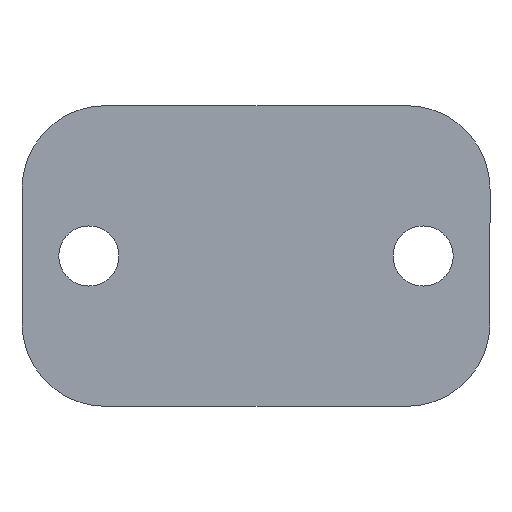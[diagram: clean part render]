
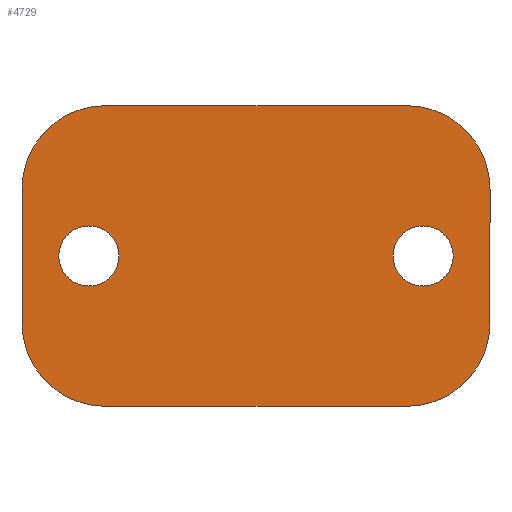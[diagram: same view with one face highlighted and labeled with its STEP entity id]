
A CAD part, front view. The second image highlights one B-rep face of the part: STEP entity #4729.
In plain terms, the highlighted planar face has unit normal (0, -1, 0).
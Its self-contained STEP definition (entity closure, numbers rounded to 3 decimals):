
#27 = EDGE_CURVE ( 'NONE', #5356, #2880, #660, .T. ) ;
#194 = CARTESIAN_POINT ( 'NONE',  ( 70., -20., 20. ) ) ;
#232 = CIRCLE ( 'NONE', #2975, 25. ) ;
#490 = VERTEX_POINT ( 'NONE', #4905 ) ;
#575 = CARTESIAN_POINT ( 'NONE',  ( -45., -20., -45. ) ) ;
#581 = ORIENTED_EDGE ( 'NONE', *, *, #3130, .T. ) ;
#658 = DIRECTION ( 'NONE',  ( 1., 0., 0. ) ) ;
#660 = LINE ( 'NONE', #5425, #1215 ) ;
#700 = DIRECTION ( 'NONE',  ( 0., -1., 0. ) ) ;
#797 = FACE_OUTER_BOUND ( 'NONE', #5540, .T. ) ;
#937 = VECTOR ( 'NONE', #2782, 1000. ) ;
#949 = ORIENTED_EDGE ( 'NONE', *, *, #999, .F. ) ;
#954 = DIRECTION ( 'NONE',  ( -1., 0., 0. ) ) ;
#980 = CARTESIAN_POINT ( 'NONE',  ( -50., -20., 0. ) ) ;
#999 = EDGE_CURVE ( 'NONE', #490, #2660, #2511, .T. ) ;
#1008 = EDGE_CURVE ( 'NONE', #4852, #3364, #232, .T. ) ;
#1215 = VECTOR ( 'NONE', #954, 1000. ) ;
#1271 = ORIENTED_EDGE ( 'NONE', *, *, #3567, .F. ) ;
#1363 = EDGE_CURVE ( 'NONE', #2551, #5063, #4972, .T. ) ;
#1376 = CARTESIAN_POINT ( 'NONE',  ( 45., -20., -45. ) ) ;
#1385 = CIRCLE ( 'NONE', #2482, 25. ) ;
#1545 = CARTESIAN_POINT ( 'NONE',  ( -41., -20., 0. ) ) ;
#1613 = ORIENTED_EDGE ( 'NONE', *, *, #5515, .T. ) ;
#1700 = CARTESIAN_POINT ( 'NONE',  ( 45., -20., 45. ) ) ;
#1754 = CIRCLE ( 'NONE', #4203, 9. ) ;
#1777 = EDGE_CURVE ( 'NONE', #4967, #5356, #2902, .T. ) ;
#1788 = DIRECTION ( 'NONE',  ( 0., -1., 0. ) ) ;
#1827 = ORIENTED_EDGE ( 'NONE', *, *, #1777, .T. ) ;
#1882 = ORIENTED_EDGE ( 'NONE', *, *, #1887, .F. ) ;
#1887 = EDGE_CURVE ( 'NONE', #2660, #490, #4160, .T. ) ;
#1904 = VERTEX_POINT ( 'NONE', #3982 ) ;
#1925 = EDGE_LOOP ( 'NONE', ( #1882, #949 ) ) ;
#2084 = CARTESIAN_POINT ( 'NONE',  ( 41., -20., 0. ) ) ;
#2090 = CARTESIAN_POINT ( 'NONE',  ( 0., -20., 0. ) ) ;
#2183 = FACE_BOUND ( 'NONE', #2566, .T. ) ;
#2482 = AXIS2_PLACEMENT_3D ( 'NONE', #4866, #2598, #4412 ) ;
#2511 = CIRCLE ( 'NONE', #5323, 9. ) ;
#2551 = VERTEX_POINT ( 'NONE', #3977 ) ;
#2566 = EDGE_LOOP ( 'NONE', ( #3399, #1271 ) ) ;
#2598 = DIRECTION ( 'NONE',  ( 0., -1., 0. ) ) ;
#2641 = FACE_BOUND ( 'NONE', #1925, .T. ) ;
#2660 = VERTEX_POINT ( 'NONE', #1545 ) ;
#2666 = DIRECTION ( 'NONE',  ( 0., 0., -1. ) ) ;
#2782 = DIRECTION ( 'NONE',  ( 1., 0., 0. ) ) ;
#2829 = CARTESIAN_POINT ( 'NONE',  ( 45., -20., -20. ) ) ;
#2880 = VERTEX_POINT ( 'NONE', #3885 ) ;
#2902 = CIRCLE ( 'NONE', #4609, 25. ) ;
#2912 = DIRECTION ( 'NONE',  ( 1., 0., 0. ) ) ;
#2930 = EDGE_CURVE ( 'NONE', #1904, #4049, #4902, .T. ) ;
#2945 = AXIS2_PLACEMENT_3D ( 'NONE', #4750, #5124, #4295 ) ;
#2975 = AXIS2_PLACEMENT_3D ( 'NONE', #2829, #3813, #2912 ) ;
#3075 = AXIS2_PLACEMENT_3D ( 'NONE', #4401, #4990, #658 ) ;
#3130 = EDGE_CURVE ( 'NONE', #2880, #1904, #1385, .T. ) ;
#3176 = AXIS2_PLACEMENT_3D ( 'NONE', #980, #1788, #5341 ) ;
#3202 = ORIENTED_EDGE ( 'NONE', *, *, #2930, .T. ) ;
#3235 = AXIS2_PLACEMENT_3D ( 'NONE', #2090, #3945, #3467 ) ;
#3243 = EDGE_CURVE ( 'NONE', #4049, #3807, #5385, .T. ) ;
#3364 = VERTEX_POINT ( 'NONE', #3661 ) ;
#3399 = ORIENTED_EDGE ( 'NONE', *, *, #1363, .F. ) ;
#3443 = DIRECTION ( 'NONE',  ( 0., -1., 0. ) ) ;
#3456 = ORIENTED_EDGE ( 'NONE', *, *, #27, .T. ) ;
#3467 = DIRECTION ( 'NONE',  ( 1., 0., 0. ) ) ;
#3471 = CARTESIAN_POINT ( 'NONE',  ( -45., -20., -45. ) ) ;
#3492 = CARTESIAN_POINT ( 'NONE',  ( -70., -20., 20. ) ) ;
#3567 = EDGE_CURVE ( 'NONE', #5063, #2551, #1754, .T. ) ;
#3661 = CARTESIAN_POINT ( 'NONE',  ( 70., -20., -20. ) ) ;
#3662 = ORIENTED_EDGE ( 'NONE', *, *, #3243, .T. ) ;
#3807 = VERTEX_POINT ( 'NONE', #3471 ) ;
#3813 = DIRECTION ( 'NONE',  ( 0., -1., 0. ) ) ;
#3857 = VECTOR ( 'NONE', #5022, 1000. ) ;
#3865 = DIRECTION ( 'NONE',  ( 1., 0., 0. ) ) ;
#3885 = CARTESIAN_POINT ( 'NONE',  ( -45., -20., 45. ) ) ;
#3945 = DIRECTION ( 'NONE',  ( 0., -1., 0. ) ) ;
#3977 = CARTESIAN_POINT ( 'NONE',  ( 59., -20., 0. ) ) ;
#3982 = CARTESIAN_POINT ( 'NONE',  ( -70., -20., 20. ) ) ;
#4031 = ORIENTED_EDGE ( 'NONE', *, *, #4832, .T. ) ;
#4049 = VERTEX_POINT ( 'NONE', #4116 ) ;
#4091 = LINE ( 'NONE', #194, #3857 ) ;
#4116 = CARTESIAN_POINT ( 'NONE',  ( -70., -20., -20. ) ) ;
#4160 = CIRCLE ( 'NONE', #3176, 9. ) ;
#4179 = DIRECTION ( 'NONE',  ( 1., 0., 0. ) ) ;
#4203 = AXIS2_PLACEMENT_3D ( 'NONE', #5033, #700, #4551 ) ;
#4276 = PLANE ( 'NONE',  #3235 ) ;
#4295 = DIRECTION ( 'NONE',  ( 1., 0., 0. ) ) ;
#4345 = CARTESIAN_POINT ( 'NONE',  ( 45., -20., 20. ) ) ;
#4401 = CARTESIAN_POINT ( 'NONE',  ( 50., -20., 0. ) ) ;
#4412 = DIRECTION ( 'NONE',  ( 1., 0., 0. ) ) ;
#4551 = DIRECTION ( 'NONE',  ( 1., 0., 0. ) ) ;
#4576 = DIRECTION ( 'NONE',  ( 0., -1., 0. ) ) ;
#4609 = AXIS2_PLACEMENT_3D ( 'NONE', #4345, #3443, #3865 ) ;
#4729 = ADVANCED_FACE ( 'NONE', ( #2641, #2183, #797 ), #4276, .T. ) ;
#4750 = CARTESIAN_POINT ( 'NONE',  ( -45., -20., -20. ) ) ;
#4832 = EDGE_CURVE ( 'NONE', #3807, #4852, #4931, .T. ) ;
#4838 = VECTOR ( 'NONE', #2666, 1000. ) ;
#4852 = VERTEX_POINT ( 'NONE', #1376 ) ;
#4866 = CARTESIAN_POINT ( 'NONE',  ( -45., -20., 20. ) ) ;
#4902 = LINE ( 'NONE', #3492, #4838 ) ;
#4905 = CARTESIAN_POINT ( 'NONE',  ( -59., -20., 0. ) ) ;
#4931 = LINE ( 'NONE', #575, #937 ) ;
#4967 = VERTEX_POINT ( 'NONE', #5468 ) ;
#4972 = CIRCLE ( 'NONE', #3075, 9. ) ;
#4990 = DIRECTION ( 'NONE',  ( 0., -1., 0. ) ) ;
#5022 = DIRECTION ( 'NONE',  ( 0., 0., 1. ) ) ;
#5026 = ORIENTED_EDGE ( 'NONE', *, *, #1008, .T. ) ;
#5033 = CARTESIAN_POINT ( 'NONE',  ( 50., -20., 0. ) ) ;
#5063 = VERTEX_POINT ( 'NONE', #2084 ) ;
#5124 = DIRECTION ( 'NONE',  ( 0., -1., 0. ) ) ;
#5323 = AXIS2_PLACEMENT_3D ( 'NONE', #5460, #4576, #4179 ) ;
#5341 = DIRECTION ( 'NONE',  ( 1., 0., 0. ) ) ;
#5356 = VERTEX_POINT ( 'NONE', #1700 ) ;
#5385 = CIRCLE ( 'NONE', #2945, 25. ) ;
#5425 = CARTESIAN_POINT ( 'NONE',  ( -45., -20., 45. ) ) ;
#5460 = CARTESIAN_POINT ( 'NONE',  ( -50., -20., 0. ) ) ;
#5468 = CARTESIAN_POINT ( 'NONE',  ( 70., -20., 20. ) ) ;
#5515 = EDGE_CURVE ( 'NONE', #3364, #4967, #4091, .T. ) ;
#5540 = EDGE_LOOP ( 'NONE', ( #3662, #4031, #5026, #1613, #1827, #3456, #581, #3202 ) ) ;
